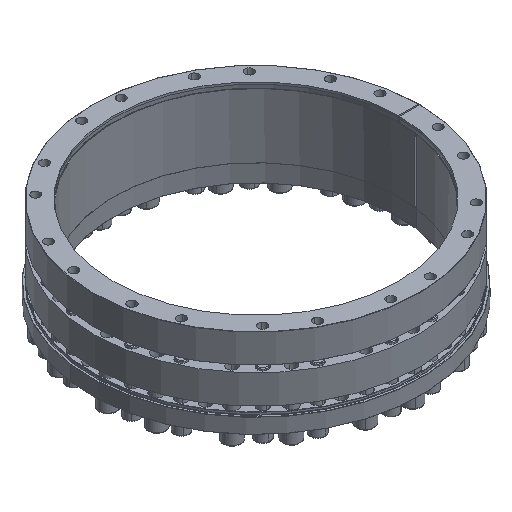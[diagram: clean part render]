
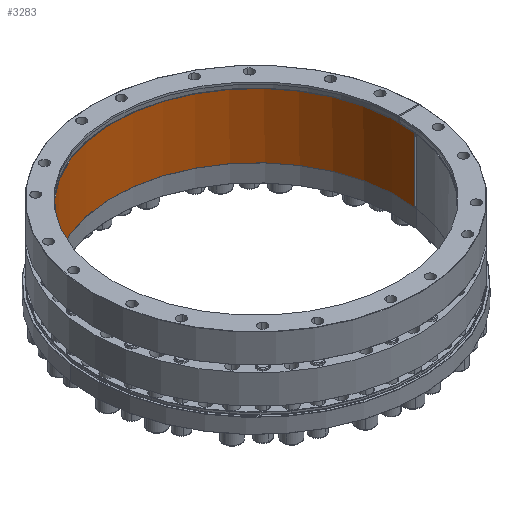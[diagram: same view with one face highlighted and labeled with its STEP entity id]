
A CAD part, isometric view. The second image highlights one B-rep face of the part: STEP entity #3283.
In plain terms, the highlighted cylindrical face has radius 290 mm (diameter 580 mm), a partial arc.
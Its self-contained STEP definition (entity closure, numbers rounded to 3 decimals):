
#517 = FACE_OUTER_BOUND ( 'NONE', #43349, .T. ) ;
#2878 = DIRECTION ( 'NONE',  ( 0.991, -0.131, 0. ) ) ;
#3283 = ADVANCED_FACE ( 'NONE', ( #517 ), #31049, .F. ) ;
#4939 = CARTESIAN_POINT ( 'NONE',  ( -287.182, 40.33, -141.504 ) ) ;
#6242 = ORIENTED_EDGE ( 'NONE', *, *, #47924, .T. ) ;
#6738 = EDGE_CURVE ( 'NONE', #23642, #9565, #34905, .T. ) ;
#7043 = CARTESIAN_POINT ( 'NONE',  ( -287.519, 37.853, -11.004 ) ) ;
#9565 = VERTEX_POINT ( 'NONE', #39500 ) ;
#9717 = DIRECTION ( 'NONE',  ( 0., 0., -1. ) ) ;
#10067 = CIRCLE ( 'NONE', #37278, 290. ) ;
#10130 = VERTEX_POINT ( 'NONE', #34652 ) ;
#10518 = ORIENTED_EDGE ( 'NONE', *, *, #42059, .T. ) ;
#10738 = LINE ( 'NONE', #19864, #45653 ) ;
#13161 = ORIENTED_EDGE ( 'NONE', *, *, #6738, .F. ) ;
#13555 = VECTOR ( 'NONE', #13662, 1000. ) ;
#13662 = DIRECTION ( 'NONE',  ( 0., 0., 1. ) ) ;
#17059 = VERTEX_POINT ( 'NONE', #30228 ) ;
#18398 = CARTESIAN_POINT ( 'NONE',  ( 0., 0., -11.004 ) ) ;
#19194 = CARTESIAN_POINT ( 'NONE',  ( 0., 0., -141.504 ) ) ;
#19864 = CARTESIAN_POINT ( 'NONE',  ( 287.835, -35.373, -11.004 ) ) ;
#19887 = VERTEX_POINT ( 'NONE', #58437 ) ;
#20608 = LINE ( 'NONE', #36950, #44886 ) ;
#20765 = DIRECTION ( 'NONE',  ( 0., 0., 1. ) ) ;
#22762 = ORIENTED_EDGE ( 'NONE', *, *, #43933, .T. ) ;
#22780 = VECTOR ( 'NONE', #20765, 1000. ) ;
#22993 = DIRECTION ( 'NONE',  ( 0.991, -0.131, 0. ) ) ;
#23583 = CARTESIAN_POINT ( 'NONE',  ( 287.519, -37.853, -141.504 ) ) ;
#23642 = VERTEX_POINT ( 'NONE', #33872 ) ;
#23896 = CARTESIAN_POINT ( 'NONE',  ( 0., 0., -141.504 ) ) ;
#24482 = DIRECTION ( 'NONE',  ( 0., 0., 1. ) ) ;
#24624 = DIRECTION ( 'NONE',  ( -0.991, 0.131, 0. ) ) ;
#24960 = CARTESIAN_POINT ( 'NONE',  ( 0., 0., -11.004 ) ) ;
#25302 = ORIENTED_EDGE ( 'NONE', *, *, #41984, .T. ) ;
#25372 = DIRECTION ( 'NONE',  ( 0., 0., 1. ) ) ;
#25567 = DIRECTION ( 'NONE',  ( 0.991, -0.131, 0. ) ) ;
#25659 = LINE ( 'NONE', #45340, #13555 ) ;
#26736 = ORIENTED_EDGE ( 'NONE', *, *, #48312, .F. ) ;
#28216 = AXIS2_PLACEMENT_3D ( 'NONE', #57464, #30106, #2878 ) ;
#28466 = DIRECTION ( 'NONE',  ( -0.991, 0.131, 0. ) ) ;
#29252 = ORIENTED_EDGE ( 'NONE', *, *, #51528, .T. ) ;
#29837 = CIRCLE ( 'NONE', #28216, 290. ) ;
#29926 = VERTEX_POINT ( 'NONE', #4939 ) ;
#30106 = DIRECTION ( 'NONE',  ( 0., 0., 1. ) ) ;
#30228 = CARTESIAN_POINT ( 'NONE',  ( 287.835, -35.373, -11.004 ) ) ;
#31049 = CYLINDRICAL_SURFACE ( 'NONE', #34167, 290. ) ;
#32064 = VERTEX_POINT ( 'NONE', #32123 ) ;
#32123 = CARTESIAN_POINT ( 'NONE',  ( 287.835, -35.373, -141.504 ) ) ;
#33872 = CARTESIAN_POINT ( 'NONE',  ( -287.519, 37.853, -142.004 ) ) ;
#34167 = AXIS2_PLACEMENT_3D ( 'NONE', #24960, #25372, #25567 ) ;
#34652 = CARTESIAN_POINT ( 'NONE',  ( 287.519, -37.853, -142.004 ) ) ;
#34905 = LINE ( 'NONE', #7043, #22780 ) ;
#36950 = CARTESIAN_POINT ( 'NONE',  ( -287.182, 40.33, -11.004 ) ) ;
#37278 = AXIS2_PLACEMENT_3D ( 'NONE', #23896, #55789, #28466 ) ;
#37324 = CIRCLE ( 'NONE', #40710, 290. ) ;
#38862 = VERTEX_POINT ( 'NONE', #23583 ) ;
#39500 = CARTESIAN_POINT ( 'NONE',  ( -287.519, 37.853, -141.504 ) ) ;
#40710 = AXIS2_PLACEMENT_3D ( 'NONE', #18398, #50347, #22993 ) ;
#41984 = EDGE_CURVE ( 'NONE', #19887, #29926, #20608, .T. ) ;
#42059 = EDGE_CURVE ( 'NONE', #29926, #9565, #49916, .T. ) ;
#43349 = EDGE_LOOP ( 'NONE', ( #13161, #26736, #6242, #45161, #29252, #22762, #25302, #10518 ) ) ;
#43933 = EDGE_CURVE ( 'NONE', #17059, #19887, #37324, .T. ) ;
#44886 = VECTOR ( 'NONE', #9717, 1000. ) ;
#45161 = ORIENTED_EDGE ( 'NONE', *, *, #51436, .T. ) ;
#45340 = CARTESIAN_POINT ( 'NONE',  ( 287.519, -37.853, -11.004 ) ) ;
#45653 = VECTOR ( 'NONE', #24482, 1000. ) ;
#47924 = EDGE_CURVE ( 'NONE', #10130, #38862, #25659, .T. ) ;
#48312 = EDGE_CURVE ( 'NONE', #10130, #23642, #29837, .T. ) ;
#49916 = CIRCLE ( 'NONE', #53547, 290. ) ;
#50347 = DIRECTION ( 'NONE',  ( 0., 0., 1. ) ) ;
#51141 = DIRECTION ( 'NONE',  ( 0., 0., 1. ) ) ;
#51436 = EDGE_CURVE ( 'NONE', #38862, #32064, #10067, .T. ) ;
#51528 = EDGE_CURVE ( 'NONE', #32064, #17059, #10738, .T. ) ;
#53547 = AXIS2_PLACEMENT_3D ( 'NONE', #19194, #51141, #24624 ) ;
#55789 = DIRECTION ( 'NONE',  ( 0., 0., 1. ) ) ;
#57464 = CARTESIAN_POINT ( 'NONE',  ( 0., 0., -142.004 ) ) ;
#58437 = CARTESIAN_POINT ( 'NONE',  ( -287.182, 40.33, -11.004 ) ) ;
